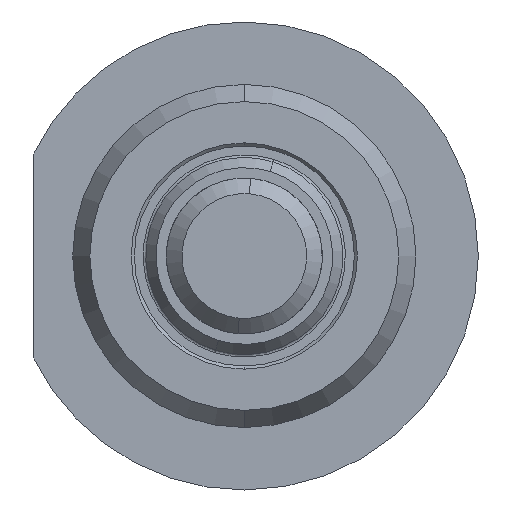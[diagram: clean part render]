
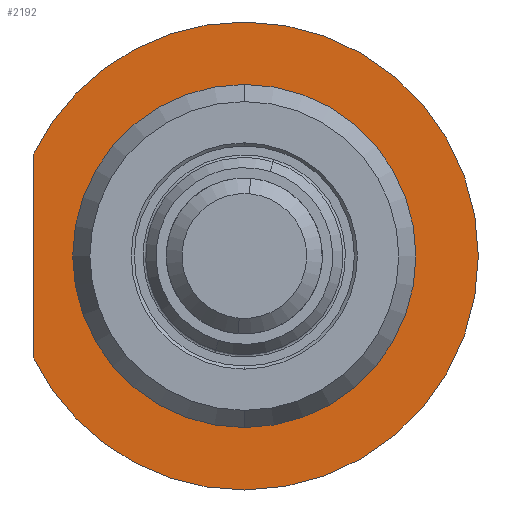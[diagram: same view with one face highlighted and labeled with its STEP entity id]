
A CAD part, left-side view. The second image highlights one B-rep face of the part: STEP entity #2192.
In plain terms, the highlighted planar face has unit normal (-1, 0, 0).
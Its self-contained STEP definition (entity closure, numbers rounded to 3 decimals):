
#56 = CARTESIAN_POINT ( 'NONE',  ( 22., 0., 0. ) ) ;
#57 = DIRECTION ( 'NONE',  ( -1., 0., 0. ) ) ;
#58 = DIRECTION ( 'NONE',  ( 0., 0., 1. ) ) ;
#61 = CARTESIAN_POINT ( 'NONE',  ( 22., 0., 0. ) ) ;
#62 = DIRECTION ( 'NONE',  ( -1., 0., 0. ) ) ;
#63 = DIRECTION ( 'NONE',  ( 0., 0., -1. ) ) ;
#256 = CIRCLE ( 'NONE', #2159, 15. ) ;
#647 = VERTEX_POINT ( 'NONE', #2958 ) ;
#680 = VERTEX_POINT ( 'NONE', #2955 ) ;
#682 = VERTEX_POINT ( 'NONE', #2911 ) ;
#731 = VERTEX_POINT ( 'NONE', #3053 ) ;
#734 = VERTEX_POINT ( 'NONE', #2983 ) ;
#768 = VERTEX_POINT ( 'NONE', #3023 ) ;
#807 = CARTESIAN_POINT ( 'NONE',  ( 22., 0., 0. ) ) ;
#808 = DIRECTION ( 'NONE',  ( -1., 0., 0. ) ) ;
#809 = DIRECTION ( 'NONE',  ( 0., 0., -1. ) ) ;
#1336 = CIRCLE ( 'NONE', #2887, 15. ) ;
#1339 = CIRCLE ( 'NONE', #2886, 11. ) ;
#1432 = FACE_BOUND ( 'NONE', #1859, .T. ) ;
#1435 = FACE_OUTER_BOUND ( 'NONE', #1840, .T. ) ;
#1617 = EDGE_CURVE ( 'NONE', #647, #682, #2601, .T. ) ;
#1620 = EDGE_CURVE ( 'NONE', #731, #768, #2604, .T. ) ;
#1626 = EDGE_CURVE ( 'NONE', #680, #768, #2617, .T. ) ;
#1708 = EDGE_CURVE ( 'NONE', #682, #647, #1339, .T. ) ;
#1709 = EDGE_CURVE ( 'NONE', #734, #680, #1336, .T. ) ;
#1840 = EDGE_LOOP ( 'NONE', ( #1885, #1886, #1887, #1888 ) ) ;
#1859 = EDGE_LOOP ( 'NONE', ( #1883, #1884 ) ) ;
#1883 = ORIENTED_EDGE ( 'NONE', *, *, #1617, .F. ) ;
#1884 = ORIENTED_EDGE ( 'NONE', *, *, #1708, .F. ) ;
#1885 = ORIENTED_EDGE ( 'NONE', *, *, #1620, .F. ) ;
#1886 = ORIENTED_EDGE ( 'NONE', *, *, #2791, .T. ) ;
#1887 = ORIENTED_EDGE ( 'NONE', *, *, #1709, .T. ) ;
#1888 = ORIENTED_EDGE ( 'NONE', *, *, #1626, .T. ) ;
#2088 = AXIS2_PLACEMENT_3D ( 'NONE', #3409, #3420, #3421 ) ;
#2159 = AXIS2_PLACEMENT_3D ( 'NONE', #807, #808, #809 ) ;
#2192 = ADVANCED_FACE ( 'NONE', ( #1432, #1435 ), #3418, .F. ) ;
#2287 = DIRECTION ( 'NONE',  ( 0., 0., 1. ) ) ;
#2297 = CARTESIAN_POINT ( 'NONE',  ( 22., 13.5, 0. ) ) ;
#2298 = DIRECTION ( 'NONE',  ( 0., 0., 1. ) ) ;
#2299 = DIRECTION ( 'NONE',  ( -1., 0., 0. ) ) ;
#2301 = CARTESIAN_POINT ( 'NONE',  ( 22., 0., 0. ) ) ;
#2601 = CIRCLE ( 'NONE', #2838, 11. ) ;
#2604 = LINE ( 'NONE', #2297, #2608 ) ;
#2608 = VECTOR ( 'NONE', #2287, 1000. ) ;
#2617 = CIRCLE ( 'NONE', #2841, 15. ) ;
#2791 = EDGE_CURVE ( 'NONE', #731, #734, #256, .T. ) ;
#2838 = AXIS2_PLACEMENT_3D ( 'NONE', #2301, #2299, #2298 ) ;
#2841 = AXIS2_PLACEMENT_3D ( 'NONE', #3079, #3080, #3081 ) ;
#2886 = AXIS2_PLACEMENT_3D ( 'NONE', #56, #57, #58 ) ;
#2887 = AXIS2_PLACEMENT_3D ( 'NONE', #61, #62, #63 ) ;
#2911 = CARTESIAN_POINT ( 'NONE',  ( 22., 0., 11. ) ) ;
#2955 = CARTESIAN_POINT ( 'NONE',  ( 22., 0., 15. ) ) ;
#2958 = CARTESIAN_POINT ( 'NONE',  ( 22., 0., -11. ) ) ;
#2983 = CARTESIAN_POINT ( 'NONE',  ( 22., 0., -15. ) ) ;
#3023 = CARTESIAN_POINT ( 'NONE',  ( 22., 13.5, 6.538 ) ) ;
#3053 = CARTESIAN_POINT ( 'NONE',  ( 22., 13.5, -6.538 ) ) ;
#3079 = CARTESIAN_POINT ( 'NONE',  ( 22., 0., 0. ) ) ;
#3080 = DIRECTION ( 'NONE',  ( -1., 0., 0. ) ) ;
#3081 = DIRECTION ( 'NONE',  ( 0., 0., -1. ) ) ;
#3409 = CARTESIAN_POINT ( 'NONE',  ( 22., -11., 0. ) ) ;
#3418 = PLANE ( 'NONE',  #2088 ) ;
#3420 = DIRECTION ( 'NONE',  ( 1., 0., 0. ) ) ;
#3421 = DIRECTION ( 'NONE',  ( 0., 0., -1. ) ) ;
